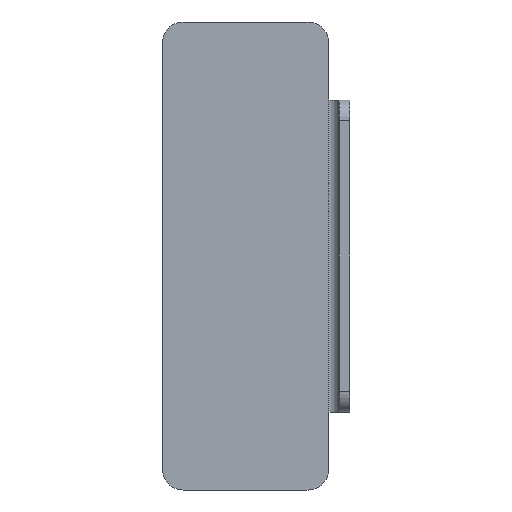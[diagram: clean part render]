
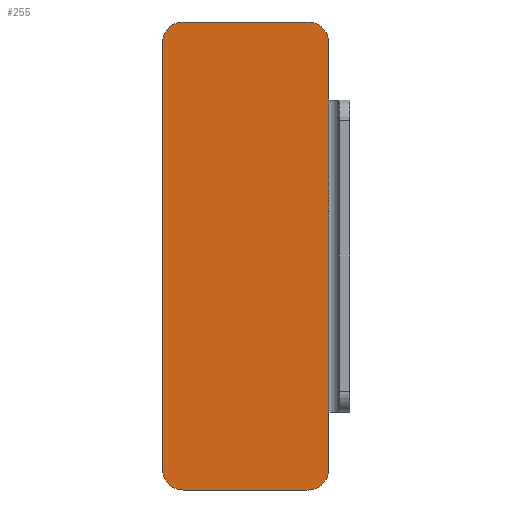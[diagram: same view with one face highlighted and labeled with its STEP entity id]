
A CAD part, left-side view. The second image highlights one B-rep face of the part: STEP entity #255.
In plain terms, the highlighted planar face has unit normal (-1, 0, 0).
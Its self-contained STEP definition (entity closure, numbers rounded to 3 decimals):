
#4 = ORIENTED_EDGE ( 'NONE', *, *, #731, .F. ) ;
#8 = DIRECTION ( 'NONE',  ( 0., 0., 1. ) ) ;
#10 = CARTESIAN_POINT ( 'NONE',  ( 0., 1., -15. ) ) ;
#21 = VERTEX_POINT ( 'NONE', #132 ) ;
#35 = ORIENTED_EDGE ( 'NONE', *, *, #734, .T. ) ;
#39 = CARTESIAN_POINT ( 'NONE',  ( 0., 3., -22.5 ) ) ;
#42 = ORIENTED_EDGE ( 'NONE', *, *, #160, .F. ) ;
#46 = LINE ( 'NONE', #805, #708 ) ;
#54 = VERTEX_POINT ( 'NONE', #518 ) ;
#62 = CARTESIAN_POINT ( 'NONE',  ( 0., 3., 22.5 ) ) ;
#87 = EDGE_CURVE ( 'NONE', #154, #94, #405, .T. ) ;
#94 = VERTEX_POINT ( 'NONE', #10 ) ;
#99 = VECTOR ( 'NONE', #632, 1000. ) ;
#122 = CARTESIAN_POINT ( 'NONE',  ( 0., 0., 15. ) ) ;
#132 = CARTESIAN_POINT ( 'NONE',  ( 0., 17., -20.5 ) ) ;
#137 = CARTESIAN_POINT ( 'NONE',  ( 0., 17., 22.5 ) ) ;
#139 = VECTOR ( 'NONE', #274, 1000. ) ;
#154 = VERTEX_POINT ( 'NONE', #766 ) ;
#160 = EDGE_CURVE ( 'NONE', #323, #305, #643, .T. ) ;
#165 = VECTOR ( 'NONE', #262, 1000. ) ;
#166 = CIRCLE ( 'NONE', #628, 2. ) ;
#173 = PLANE ( 'NONE',  #795 ) ;
#178 = VECTOR ( 'NONE', #339, 1000. ) ;
#227 = ORIENTED_EDGE ( 'NONE', *, *, #806, .F. ) ;
#231 = DIRECTION ( 'NONE',  ( 0., 1., 0. ) ) ;
#255 = ADVANCED_FACE ( 'NONE', ( #538 ), #173, .T. ) ;
#262 = DIRECTION ( 'NONE',  ( 0., 0., -1. ) ) ;
#274 = DIRECTION ( 'NONE',  ( 0., 0., -1. ) ) ;
#282 = CARTESIAN_POINT ( 'NONE',  ( 0., 3., -20.5 ) ) ;
#305 = VERTEX_POINT ( 'NONE', #756 ) ;
#306 = LINE ( 'NONE', #799, #735 ) ;
#308 = EDGE_LOOP ( 'NONE', ( #688, #788, #340, #227, #42, #318, #4, #35, #801, #444 ) ) ;
#317 = EDGE_CURVE ( 'NONE', #21, #54, #166, .T. ) ;
#318 = ORIENTED_EDGE ( 'NONE', *, *, #338, .T. ) ;
#321 = DIRECTION ( 'NONE',  ( -1., 0., 0. ) ) ;
#323 = VERTEX_POINT ( 'NONE', #463 ) ;
#328 = VERTEX_POINT ( 'NONE', #62 ) ;
#338 = EDGE_CURVE ( 'NONE', #323, #328, #592, .T. ) ;
#339 = DIRECTION ( 'NONE',  ( 0., 0., 1. ) ) ;
#340 = ORIENTED_EDGE ( 'NONE', *, *, #87, .T. ) ;
#399 = DIRECTION ( 'NONE',  ( -1., 0., 0. ) ) ;
#405 = LINE ( 'NONE', #786, #178 ) ;
#427 = AXIS2_PLACEMENT_3D ( 'NONE', #699, #399, #690 ) ;
#433 = CIRCLE ( 'NONE', #677, 2. ) ;
#444 = ORIENTED_EDGE ( 'NONE', *, *, #317, .T. ) ;
#463 = CARTESIAN_POINT ( 'NONE',  ( 0., 1., 20.5 ) ) ;
#491 = VERTEX_POINT ( 'NONE', #533 ) ;
#518 = CARTESIAN_POINT ( 'NONE',  ( 0., 15., -22.5 ) ) ;
#533 = CARTESIAN_POINT ( 'NONE',  ( 0., 15., 22.5 ) ) ;
#538 = FACE_OUTER_BOUND ( 'NONE', #308, .T. ) ;
#563 = EDGE_CURVE ( 'NONE', #593, #154, #433, .T. ) ;
#569 = LINE ( 'NONE', #137, #99 ) ;
#575 = DIRECTION ( 'NONE',  ( 0., 0., -1. ) ) ;
#592 = CIRCLE ( 'NONE', #694, 2. ) ;
#593 = VERTEX_POINT ( 'NONE', #39 ) ;
#597 = DIRECTION ( 'NONE',  ( 0., 0., 1. ) ) ;
#628 = AXIS2_PLACEMENT_3D ( 'NONE', #706, #695, #703 ) ;
#632 = DIRECTION ( 'NONE',  ( 0., -1., 0. ) ) ;
#643 = LINE ( 'NONE', #717, #139 ) ;
#664 = DIRECTION ( 'NONE',  ( -1., 0., 0. ) ) ;
#665 = DIRECTION ( 'NONE',  ( 0., 0., 1. ) ) ;
#675 = EDGE_CURVE ( 'NONE', #593, #54, #306, .T. ) ;
#677 = AXIS2_PLACEMENT_3D ( 'NONE', #282, #664, #597 ) ;
#688 = ORIENTED_EDGE ( 'NONE', *, *, #675, .F. ) ;
#690 = DIRECTION ( 'NONE',  ( 0., 0., 1. ) ) ;
#694 = AXIS2_PLACEMENT_3D ( 'NONE', #712, #321, #8 ) ;
#695 = DIRECTION ( 'NONE',  ( -1., 0., 0. ) ) ;
#699 = CARTESIAN_POINT ( 'NONE',  ( 0., 15., 20.5 ) ) ;
#702 = CARTESIAN_POINT ( 'NONE',  ( 0., 1., 15. ) ) ;
#703 = DIRECTION ( 'NONE',  ( 0., 0., 1. ) ) ;
#706 = CARTESIAN_POINT ( 'NONE',  ( 0., 15., -20.5 ) ) ;
#708 = VECTOR ( 'NONE', #575, 1000. ) ;
#711 = EDGE_CURVE ( 'NONE', #819, #21, #46, .T. ) ;
#712 = CARTESIAN_POINT ( 'NONE',  ( 0., 3., 20.5 ) ) ;
#717 = CARTESIAN_POINT ( 'NONE',  ( 0., 1., 22.5 ) ) ;
#731 = EDGE_CURVE ( 'NONE', #491, #328, #569, .T. ) ;
#734 = EDGE_CURVE ( 'NONE', #491, #819, #777, .T. ) ;
#735 = VECTOR ( 'NONE', #231, 1000. ) ;
#749 = CARTESIAN_POINT ( 'NONE',  ( 0., 17., 20.5 ) ) ;
#750 = DIRECTION ( 'NONE',  ( -1., 0., 0. ) ) ;
#756 = CARTESIAN_POINT ( 'NONE',  ( 0., 1., 15. ) ) ;
#758 = LINE ( 'NONE', #702, #165 ) ;
#766 = CARTESIAN_POINT ( 'NONE',  ( 0., 1., -20.5 ) ) ;
#777 = CIRCLE ( 'NONE', #427, 2. ) ;
#786 = CARTESIAN_POINT ( 'NONE',  ( 0., 1., -22.5 ) ) ;
#788 = ORIENTED_EDGE ( 'NONE', *, *, #563, .T. ) ;
#795 = AXIS2_PLACEMENT_3D ( 'NONE', #122, #750, #665 ) ;
#799 = CARTESIAN_POINT ( 'NONE',  ( 0., 1., -22.5 ) ) ;
#801 = ORIENTED_EDGE ( 'NONE', *, *, #711, .T. ) ;
#805 = CARTESIAN_POINT ( 'NONE',  ( 0., 17., 15. ) ) ;
#806 = EDGE_CURVE ( 'NONE', #305, #94, #758, .T. ) ;
#819 = VERTEX_POINT ( 'NONE', #749 ) ;
